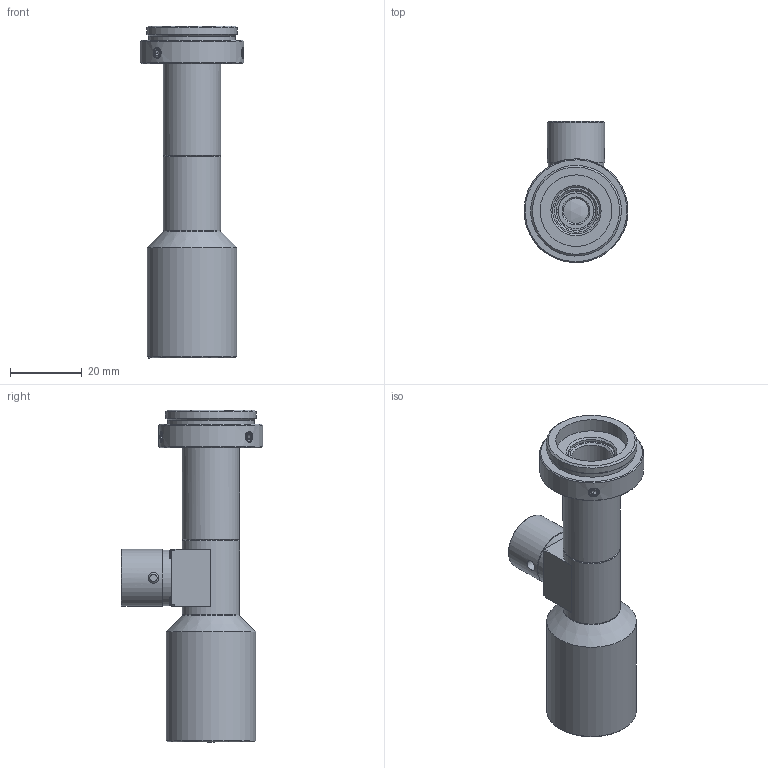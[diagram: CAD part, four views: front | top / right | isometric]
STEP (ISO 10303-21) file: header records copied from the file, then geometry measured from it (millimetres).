
FILE_DESCRIPTION(('STEP AP214'),'1');
FILE_NAME('RTK-08-M65.stp','2026-07-31T06:09:58',(' '),(' '),'Spatial InterOp 3D',' ',' ');
FILE_SCHEMA(('AUTOMOTIVE_DESIGN { 1 0 10303 214 1 1 1 1 }'));
Length unit declared in the file: metre
Products named in the file (2): RTK-08-M65; Component1
Assembly tree (1 placements, depth 2):
  RTK-08-M65
    Component1
Bounding box: 28.97 x 39.49 x 92.61 mm (x, y, z)
Volume: 21737.6 mm3; surface area: 16420.3 mm2
Topology: 1 solids, 20 shells, 395 faces, 930 edges, 601 vertices
Faces by surface type: plane 180, cone 109, cylinder 80, sphere 15, torus 8, bspline 3
Full cylindrical faces by diameter (mm): 1.7 x8, 1.8 x4, 2.5 x3, 3 x3, 6 x1, 6.5 x1, 7 x1, 8 x2, 8.5 x4, 9 x1, 9.4 x1, 10 x2, 10.2 x1, 11 x1, 12 x1, 12.5 x1, 12.7 x1, 13 x3, 13.7 x1, 14 x3, 14.2 x3, 15.5 x1, 16 x5, 17.5 x1, 18 x1, 19 x3, 19.5 x1, 20 x1, 21.5 x3, 23 x1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
Entity records: 13994 total; most frequent: CARTESIAN_POINT 2509, DIRECTION 1798, ORIENTED_EDGE 1420, AXIS2_PLACEMENT_3D 775, EDGE_CURVE 710, EDGE_LOOP 616, VERTEX_POINT 539, FACE_OUTER_BOUND 474
